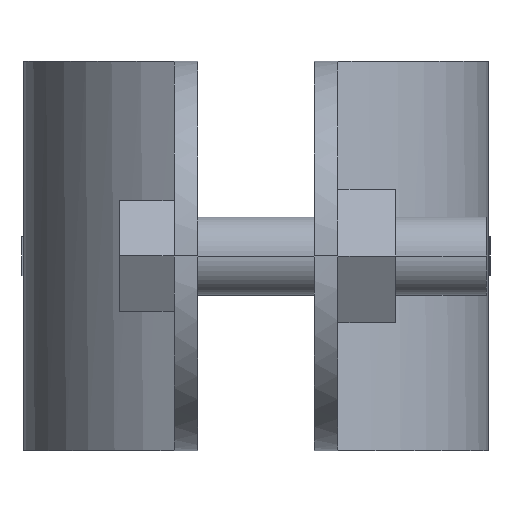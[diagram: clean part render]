
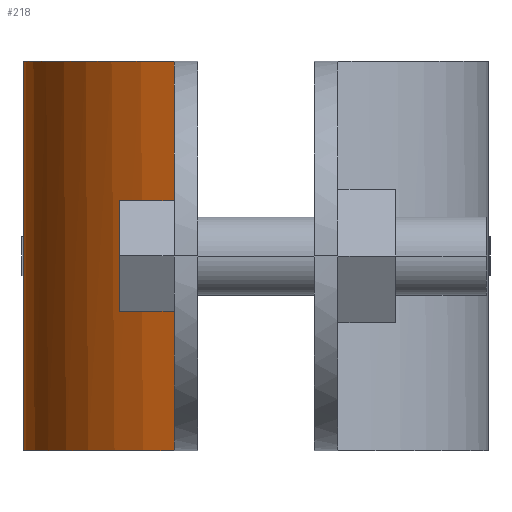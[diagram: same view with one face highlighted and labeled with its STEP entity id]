
A CAD part, left-side view. The second image highlights one B-rep face of the part: STEP entity #218.
In plain terms, the highlighted free-form (B-spline) face has degree [3, 1] with [4, 2] control points.
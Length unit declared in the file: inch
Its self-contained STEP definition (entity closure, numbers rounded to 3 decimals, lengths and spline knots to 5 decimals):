
#218=ADVANCED_FACE('',(#450),#451,.T.);
#450=FACE_OUTER_BOUND('',#756,.T.);
#451=B_SPLINE_SURFACE_WITH_KNOTS('',3,1,((#757,#758),(#759,#760),(#761,#762),(#763,#764)),.UNSPECIFIED.,.F.,.F.,.F.,(4,4),(2,2),(-1.0,-0.0),(0.0,1.25),.UNSPECIFIED.);
#756=EDGE_LOOP('',(#1258,#1259,#1260,#1261));
#757=CARTESIAN_POINT('',(1.31713,1.5389,0.0));
#758=CARTESIAN_POINT('',(1.31713,1.5389,1.25));
#759=CARTESIAN_POINT('',(0.9694,1.59054,0.0));
#760=CARTESIAN_POINT('',(0.9694,1.59054,1.25));
#761=CARTESIAN_POINT('',(0.63283,1.39238,0.0));
#762=CARTESIAN_POINT('',(0.63283,1.39238,1.25));
#763=CARTESIAN_POINT('',(0.50928,1.06327,0.0));
#764=CARTESIAN_POINT('',(0.50928,1.06327,1.25));
#1258=ORIENTED_EDGE('',*,*,#1799,.T.);
#1259=ORIENTED_EDGE('',*,*,#1800,.T.);
#1260=ORIENTED_EDGE('',*,*,#1791,.T.);
#1261=ORIENTED_EDGE('',*,*,#1776,.F.);
#1776=EDGE_CURVE('',#2141,#2143,#2144,.T.);
#1791=EDGE_CURVE('',#2167,#2143,#2168,.T.);
#1799=EDGE_CURVE('',#2141,#2178,#2179,.T.);
#1800=EDGE_CURVE('',#2178,#2167,#2180,.T.);
#2141=VERTEX_POINT('',#2675);
#2143=VERTEX_POINT('',#2678);
#2144=LINE('',#2679,#2680);
#2167=VERTEX_POINT('',#2721);
#2168=B_SPLINE_CURVE_WITH_KNOTS('',3,(#2722,#2723,#2724,#2725),.UNSPECIFIED.,.F.,.F.,(4,4),(0.0,1.0),.UNSPECIFIED.);
#2178=VERTEX_POINT('',#2739);
#2179=B_SPLINE_CURVE_WITH_KNOTS('',3,(#2740,#2741,#2742,#2743),.UNSPECIFIED.,.F.,.F.,(4,4),(-1.0,-0.0),.UNSPECIFIED.);
#2180=LINE('',#2744,#2745);
#2675=CARTESIAN_POINT('',(1.31713,1.5389,0.00009));
#2678=CARTESIAN_POINT('',(1.31713,1.5389,1.24989));
#2679=CARTESIAN_POINT('',(1.31713,1.5389,0.0));
#2680=VECTOR('',#3090,1.0);
#2721=CARTESIAN_POINT('',(0.50928,1.06327,1.24989));
#2722=CARTESIAN_POINT('',(0.50928,1.06327,1.24989));
#2723=CARTESIAN_POINT('',(0.63283,1.39238,1.24989));
#2724=CARTESIAN_POINT('',(0.9694,1.59054,1.24989));
#2725=CARTESIAN_POINT('',(1.31713,1.5389,1.24989));
#2739=CARTESIAN_POINT('',(0.50928,1.06327,0.00009));
#2740=CARTESIAN_POINT('',(1.31713,1.5389,0.00009));
#2741=CARTESIAN_POINT('',(0.9694,1.59054,0.00009));
#2742=CARTESIAN_POINT('',(0.63283,1.39238,0.00009));
#2743=CARTESIAN_POINT('',(0.50928,1.06327,0.00009));
#2744=CARTESIAN_POINT('',(0.50928,1.06327,0.0));
#2745=VECTOR('',#3104,1.0);
#3090=DIRECTION('',(0.0,0.0,1.0));
#3104=DIRECTION('',(0.0,0.0,1.0));
